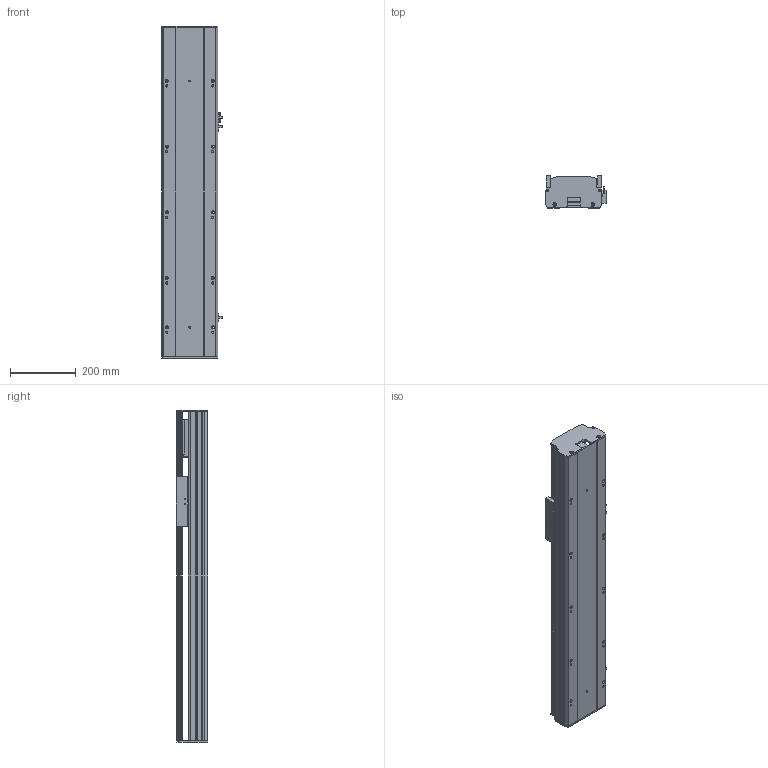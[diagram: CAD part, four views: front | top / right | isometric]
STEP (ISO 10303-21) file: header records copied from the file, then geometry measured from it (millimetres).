
FILE_DESCRIPTION (( 'STEP AP203' ), '1' );
FILE_NAME ('Y170-D10-S600-M-P400W.STEP', '2020-01-22T12:43:58', ( '微软用户' ), ( '微软中国' ), 'SwSTEP 2.0', 'SolidWorks 2017', '' );
FILE_SCHEMA (( 'CONFIG_CONTROL_DESIGN' ));
Length unit declared in the file: millimetre
Products named in the file (10): Y170耜裔--準---M; san松下电机400不带刹车----; Y170-陔遴奻裔-M; YD-Y100-135-新外置传感挡片(通用）; Y170-D10-S600-M-P400W; Y100-135俋离換覜ん; 135-盓傅釱-FK15; Y170耜裔--準---; Y170--雄赽釱-梓--; 170--掛极-M
Assembly tree (11 placements, depth 2):
  Y170-D10-S600-M-P400W
    YD-Y100-135-新外置传感挡片(通用）
    Y100-135俋离換覜ん  x3
    135-盓傅釱-FK15
    Y170耜裔--準---
    Y170--雄赽釱-梓--
    170--掛极-M
    Y170耜裔--準---M
    san松下电机400不带刹车----
    Y170-陔遴奻裔-M
Bounding box: 183.5 x 97 x 1011 mm (x, y, z)
Volume: 4553555.9 mm3; surface area: 1586265.3 mm2
Topology: 11 solids, 11 shells, 773 faces, 2180 edges, 1444 vertices
Faces by surface type: cylinder 387, plane 384, torus 2
Entity records: 24860 total; most frequent: CARTESIAN_POINT 4377, DIRECTION 4142, ORIENTED_EDGE 4024, EDGE_CURVE 2012, AXIS2_PLACEMENT_3D 1465, VERTEX_POINT 1332, VECTOR 1212, LINE 1212
